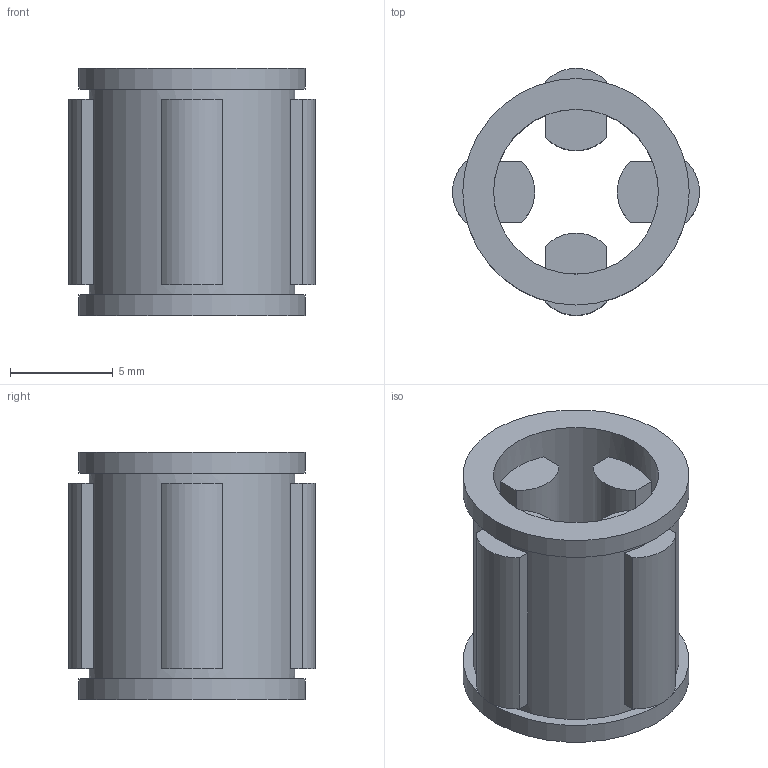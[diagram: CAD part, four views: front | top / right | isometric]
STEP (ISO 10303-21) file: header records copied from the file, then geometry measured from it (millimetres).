
FILE_DESCRIPTION(/* description */ (''),/* implementation_level */ '2;1');
FILE_NAME(/* name */ '300393 FE 412 Z.stp',/* time_stamp */ '2016-11-03T09:35:12+01:00',/* author */ (''),/* organization */ (''),/* preprocessor_version */ 'ST-DEVELOPER v15',/* originating_system */ 'SIEMENS PLM Software NX 8.5',/* authorisation */ '');
FILE_SCHEMA (('CONFIG_CONTROL_DESIGN'));
Length unit declared in the file: millimetre
Products named in the file (1): ATE0000080_01
Bounding box: 12 x 12 x 12 mm (x, y, z)
Volume: 645.9 mm3; surface area: 1009.1 mm2
Topology: 1 solids, 1 shells, 48 faces, 114 edges, 76 vertices
Faces by surface type: plane 36, cylinder 12
Full cylindrical faces by diameter (mm): 8 x1, 10 x1, 11 x2
Entity records: 1420 total; most frequent: DIRECTION 242, CARTESIAN_POINT 225, ORIENTED_EDGE 208, EDGE_CURVE 104, AXIS2_PLACEMENT_3D 89, VERTEX_POINT 72, LINE 64, VECTOR 64
